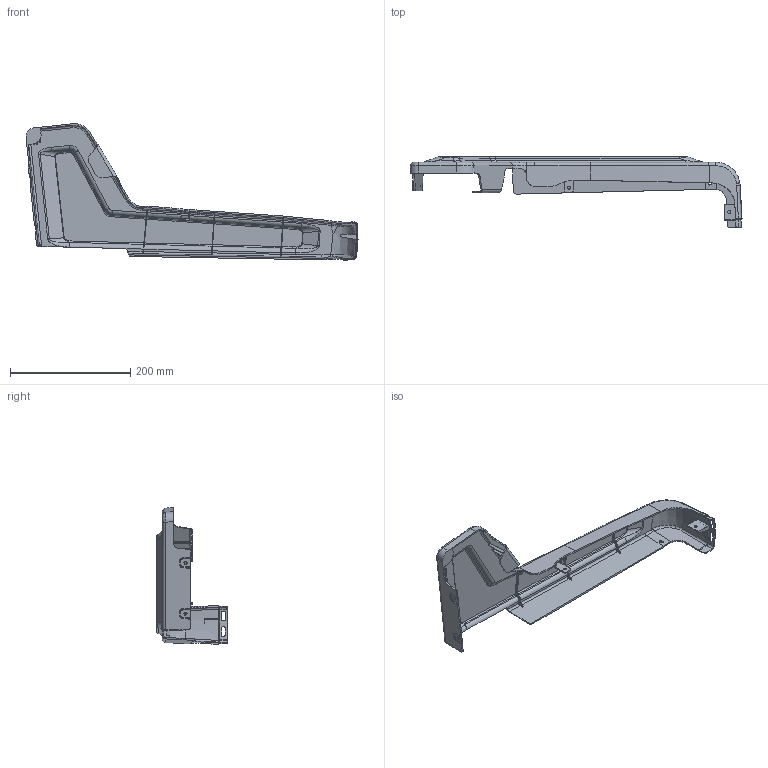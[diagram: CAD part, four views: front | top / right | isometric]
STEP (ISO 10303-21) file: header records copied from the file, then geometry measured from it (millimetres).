
FILE_DESCRIPTION(('CATIA V5 STEP Exchange'),'2;1');
FILE_NAME('F:\20-X5000\X5000\02-方案交流\副驾驶罩壳\下发模具开发数据\2D\SHT0013695-左侧罩壳\SHT0014014.stp','2021-11-20T07:32:13+00:00',('none'),('none'),'CATIA Version 5 Release 20 GA (IN-10)','CATIA V5 STEP AP203 Edition 2','none');
FILE_SCHEMA(('AP203_CONFIGURATION_CONTROLLED_3D_DESIGN_OF_MECHANICAL_PARTS_AND_ASSEMBLIES_MIM_LF { 1 0 10303 403 2 1 2}'));
Length unit declared in the file: millimetre
Products named in the file (1): SHT0013695
Bounding box: 552.02 x 117.65 x 227.22 mm (x, y, z)
Volume: 266789.2 mm3; surface area: 226831.2 mm2
Topology: 1 solids, 1 shells, 538 faces, 1769 edges, 1235 vertices
Faces by surface type: plane 197, cylinder 177, bspline 164
Entity records: 27893 total; most frequent: CARTESIAN_POINT 15021, ORIENTED_EDGE 3538, EDGE_CURVE 1769, DIRECTION 1448, VERTEX_POINT 1235, B_SPLINE_CURVE_WITH_KNOTS 952, VECTOR 669, LINE 669
